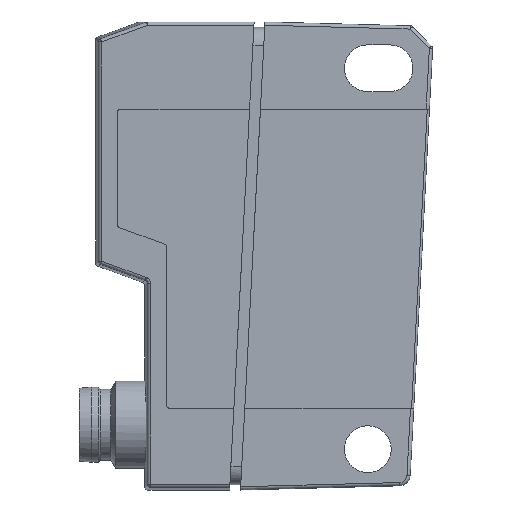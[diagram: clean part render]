
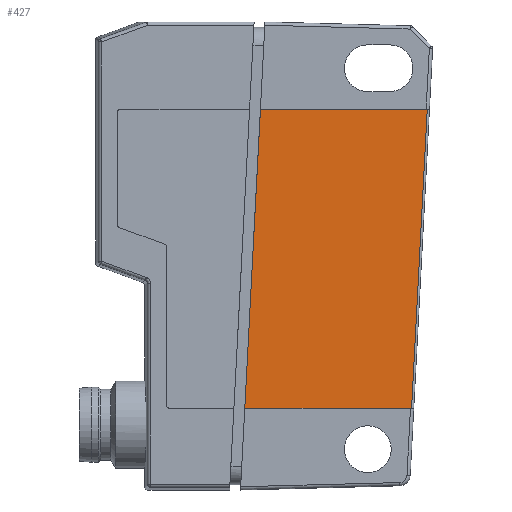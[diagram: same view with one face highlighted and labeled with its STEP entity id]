
A CAD part, front view. The second image highlights one B-rep face of the part: STEP entity #427.
In plain terms, the highlighted planar face has unit normal (0, -1, 0).
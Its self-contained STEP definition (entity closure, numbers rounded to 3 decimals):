
#427 = ADVANCED_FACE( '', ( #874 ), #875, .T. );
#874 = FACE_OUTER_BOUND( '', #1436, .T. );
#875 = PLANE( '', #1437 );
#1436 = EDGE_LOOP( '', ( #2574, #2575, #2576, #2577 ) );
#1437 = AXIS2_PLACEMENT_3D( '', #2578, #2579, #2580 );
#2574 = ORIENTED_EDGE( '', *, *, #2888, .T. );
#2575 = ORIENTED_EDGE( '', *, *, #2716, .T. );
#2576 = ORIENTED_EDGE( '', *, *, #2953, .T. );
#2577 = ORIENTED_EDGE( '', *, *, #3041, .T. );
#2578 = CARTESIAN_POINT( '', ( -11.308, -7.3, 3.75 ) );
#2579 = DIRECTION( '', ( 0., -1., 0. ) );
#2580 = DIRECTION( '', ( 0., 0., 1. ) );
#2716 = EDGE_CURVE( '', #3234, #3236, #3238, .T. );
#2888 = EDGE_CURVE( '', #3490, #3234, #3491, .T. );
#2953 = EDGE_CURVE( '', #3236, #3574, #3576, .T. );
#3041 = EDGE_CURVE( '', #3574, #3490, #3675, .T. );
#3234 = VERTEX_POINT( '', #3921 );
#3236 = VERTEX_POINT( '', #3923 );
#3238 = LINE( '', #3925, #3926 );
#3490 = VERTEX_POINT( '', #4251 );
#3491 = LINE( '', #4252, #4253 );
#3574 = VERTEX_POINT( '', #4363 );
#3576 = LINE( '', #4366, #4367 );
#3675 = LINE( '', #4493, #4494 );
#3921 = CARTESIAN_POINT( '', ( 4.018, -7.3, 3.75 ) );
#3923 = CARTESIAN_POINT( '', ( 5.459, -7.3, 31.25 ) );
#3925 = CARTESIAN_POINT( '', ( 3.976, -7.3, 2.949 ) );
#3926 = VECTOR( '', #4669, 1000. );
#4251 = CARTESIAN_POINT( '', ( -11.308, -7.3, 3.75 ) );
#4252 = CARTESIAN_POINT( '', ( -11.308, -7.3, 3.75 ) );
#4253 = VECTOR( '', #4902, 1000. );
#4363 = CARTESIAN_POINT( '', ( -9.866, -7.3, 31.25 ) );
#4366 = CARTESIAN_POINT( '', ( 5.659, -7.3, 31.25 ) );
#4367 = VECTOR( '', #4976, 1000. );
#4493 = CARTESIAN_POINT( '', ( -9.866, -7.3, 31.25 ) );
#4494 = VECTOR( '', #5046, 1000. );
#4669 = DIRECTION( '', ( 0.052, 0., 0.999 ) );
#4902 = DIRECTION( '', ( 1., 0., 0. ) );
#4976 = DIRECTION( '', ( -1., 0., 0. ) );
#5046 = DIRECTION( '', ( -0.052, 0., -0.999 ) );
